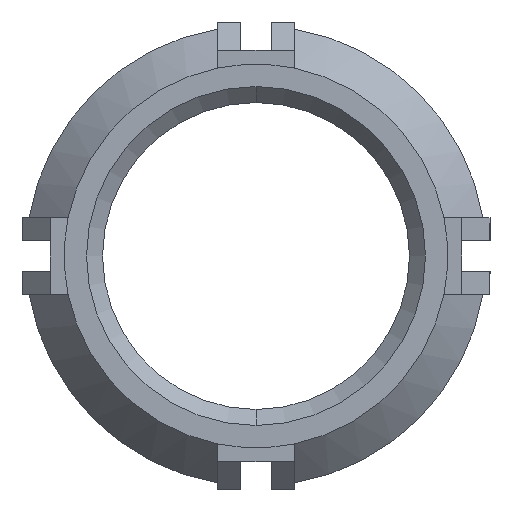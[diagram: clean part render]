
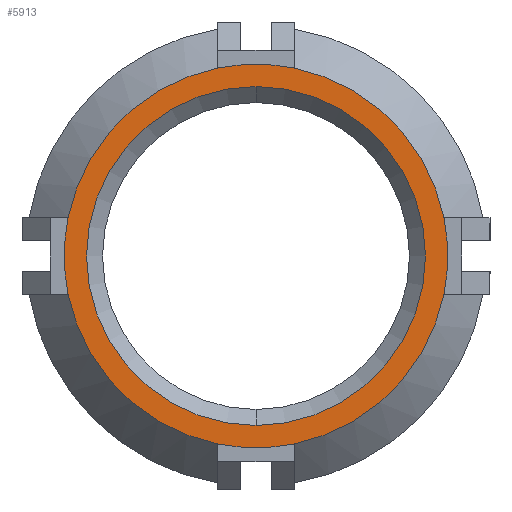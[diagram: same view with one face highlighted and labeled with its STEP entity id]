
A CAD part, front view. The second image highlights one B-rep face of the part: STEP entity #5913.
In plain terms, the highlighted planar face has unit normal (0, -1, 0).
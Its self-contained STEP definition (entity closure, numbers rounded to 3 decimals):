
#151 = CARTESIAN_POINT ( 'NONE',  ( 0., -18., 0. ) ) ;
#252 = DIRECTION ( 'NONE',  ( 0., -1., 0. ) ) ;
#322 = CARTESIAN_POINT ( 'NONE',  ( -7.348, -18., -1.5 ) ) ;
#365 = DIRECTION ( 'NONE',  ( 0., -1., 0. ) ) ;
#441 = CIRCLE ( 'NONE', #1491, 6.625 ) ;
#489 = ORIENTED_EDGE ( 'NONE', *, *, #1549, .T. ) ;
#525 = ORIENTED_EDGE ( 'NONE', *, *, #824, .T. ) ;
#530 = DIRECTION ( 'NONE',  ( 0., -1., 0. ) ) ;
#562 = ORIENTED_EDGE ( 'NONE', *, *, #1445, .T. ) ;
#647 = VERTEX_POINT ( 'NONE', #322 ) ;
#693 = EDGE_LOOP ( 'NONE', ( #2321, #489, #562, #3115, #525, #2343, #4933, #2089 ) ) ;
#733 = DIRECTION ( 'NONE',  ( 1., 0., 0. ) ) ;
#756 = DIRECTION ( 'NONE',  ( 0., 0., 1. ) ) ;
#761 = CARTESIAN_POINT ( 'NONE',  ( 0., -18., 0. ) ) ;
#824 = EDGE_CURVE ( 'NONE', #5133, #4205, #1118, .T. ) ;
#988 = EDGE_CURVE ( 'NONE', #4205, #4651, #1003, .T. ) ;
#1003 = CIRCLE ( 'NONE', #5384, 7.5 ) ;
#1118 = CIRCLE ( 'NONE', #5591, 7.5 ) ;
#1137 = CIRCLE ( 'NONE', #1626, 7.5 ) ;
#1186 = FACE_BOUND ( 'NONE', #2910, .T. ) ;
#1206 = EDGE_CURVE ( 'NONE', #4395, #2068, #441, .T. ) ;
#1226 = CIRCLE ( 'NONE', #4620, 7.5 ) ;
#1318 = DIRECTION ( 'NONE',  ( 0., -1., 0. ) ) ;
#1346 = CARTESIAN_POINT ( 'NONE',  ( 0., -18., 0. ) ) ;
#1374 = VERTEX_POINT ( 'NONE', #3412 ) ;
#1445 = EDGE_CURVE ( 'NONE', #4859, #1374, #4601, .T. ) ;
#1485 = EDGE_CURVE ( 'NONE', #2068, #4395, #5484, .T. ) ;
#1491 = AXIS2_PLACEMENT_3D ( 'NONE', #1346, #3195, #5486 ) ;
#1543 = EDGE_CURVE ( 'NONE', #4651, #4464, #5388, .T. ) ;
#1549 = EDGE_CURVE ( 'NONE', #647, #4859, #4992, .T. ) ;
#1626 = AXIS2_PLACEMENT_3D ( 'NONE', #3645, #4188, #2214 ) ;
#1714 = VERTEX_POINT ( 'NONE', #5379 ) ;
#2068 = VERTEX_POINT ( 'NONE', #2327 ) ;
#2089 = ORIENTED_EDGE ( 'NONE', *, *, #3383, .T. ) ;
#2091 = CIRCLE ( 'NONE', #4815, 7.5 ) ;
#2132 = DIRECTION ( 'NONE',  ( -1., 0., 0. ) ) ;
#2214 = DIRECTION ( 'NONE',  ( 0., 0., 1. ) ) ;
#2321 = ORIENTED_EDGE ( 'NONE', *, *, #4768, .T. ) ;
#2327 = CARTESIAN_POINT ( 'NONE',  ( 0., -18., 6.625 ) ) ;
#2343 = ORIENTED_EDGE ( 'NONE', *, *, #988, .T. ) ;
#2380 = ORIENTED_EDGE ( 'NONE', *, *, #1206, .T. ) ;
#2616 = DIRECTION ( 'NONE',  ( 0., -1., 0. ) ) ;
#2689 = CARTESIAN_POINT ( 'NONE',  ( 7.348, -18., -1.5 ) ) ;
#2902 = DIRECTION ( 'NONE',  ( 0., -1., 0. ) ) ;
#2910 = EDGE_LOOP ( 'NONE', ( #2380, #2935 ) ) ;
#2935 = ORIENTED_EDGE ( 'NONE', *, *, #1485, .T. ) ;
#2957 = CARTESIAN_POINT ( 'NONE',  ( 0., -18., 0. ) ) ;
#3037 = CARTESIAN_POINT ( 'NONE',  ( 0., -18., 0. ) ) ;
#3111 = EDGE_CURVE ( 'NONE', #1374, #5133, #2091, .T. ) ;
#3115 = ORIENTED_EDGE ( 'NONE', *, *, #3111, .T. ) ;
#3123 = CARTESIAN_POINT ( 'NONE',  ( 0., -18., 0. ) ) ;
#3195 = DIRECTION ( 'NONE',  ( 0., 1., 0. ) ) ;
#3342 = AXIS2_PLACEMENT_3D ( 'NONE', #3961, #2616, #733 ) ;
#3383 = EDGE_CURVE ( 'NONE', #4464, #1714, #1226, .T. ) ;
#3412 = CARTESIAN_POINT ( 'NONE',  ( 1.5, -18., -7.348 ) ) ;
#3521 = CARTESIAN_POINT ( 'NONE',  ( 1.5, -18., 7.348 ) ) ;
#3561 = DIRECTION ( 'NONE',  ( 0., 1., 0. ) ) ;
#3627 = DIRECTION ( 'NONE',  ( 0., 0., 1. ) ) ;
#3645 = CARTESIAN_POINT ( 'NONE',  ( 0., -18., 0. ) ) ;
#3923 = PLANE ( 'NONE',  #4551 ) ;
#3961 = CARTESIAN_POINT ( 'NONE',  ( 0., -18., 0. ) ) ;
#4188 = DIRECTION ( 'NONE',  ( 0., -1., 0. ) ) ;
#4205 = VERTEX_POINT ( 'NONE', #4781 ) ;
#4233 = CARTESIAN_POINT ( 'NONE',  ( -1.5, -18., 7.348 ) ) ;
#4244 = DIRECTION ( 'NONE',  ( 0., 0., -1. ) ) ;
#4395 = VERTEX_POINT ( 'NONE', #4499 ) ;
#4464 = VERTEX_POINT ( 'NONE', #4233 ) ;
#4499 = CARTESIAN_POINT ( 'NONE',  ( 0., -18., -6.625 ) ) ;
#4503 = AXIS2_PLACEMENT_3D ( 'NONE', #3123, #4899, #4988 ) ;
#4551 = AXIS2_PLACEMENT_3D ( 'NONE', #3037, #5782, #4895 ) ;
#4601 = CIRCLE ( 'NONE', #5092, 7.5 ) ;
#4620 = AXIS2_PLACEMENT_3D ( 'NONE', #151, #1318, #3627 ) ;
#4651 = VERTEX_POINT ( 'NONE', #3521 ) ;
#4757 = DIRECTION ( 'NONE',  ( 0., 0., 1. ) ) ;
#4768 = EDGE_CURVE ( 'NONE', #1714, #647, #1137, .T. ) ;
#4781 = CARTESIAN_POINT ( 'NONE',  ( 7.348, -18., 1.5 ) ) ;
#4815 = AXIS2_PLACEMENT_3D ( 'NONE', #4927, #365, #756 ) ;
#4859 = VERTEX_POINT ( 'NONE', #5959 ) ;
#4870 = DIRECTION ( 'NONE',  ( 0., 0., 1. ) ) ;
#4895 = DIRECTION ( 'NONE',  ( 0., 0., 1. ) ) ;
#4899 = DIRECTION ( 'NONE',  ( 0., -1., 0. ) ) ;
#4927 = CARTESIAN_POINT ( 'NONE',  ( 0., -18., 0. ) ) ;
#4933 = ORIENTED_EDGE ( 'NONE', *, *, #1543, .T. ) ;
#4988 = DIRECTION ( 'NONE',  ( 0., 0., 1. ) ) ;
#4992 = CIRCLE ( 'NONE', #4503, 7.5 ) ;
#5092 = AXIS2_PLACEMENT_3D ( 'NONE', #5819, #252, #2132 ) ;
#5133 = VERTEX_POINT ( 'NONE', #2689 ) ;
#5301 = FACE_OUTER_BOUND ( 'NONE', #693, .T. ) ;
#5379 = CARTESIAN_POINT ( 'NONE',  ( -7.348, -18., 1.5 ) ) ;
#5384 = AXIS2_PLACEMENT_3D ( 'NONE', #2957, #2902, #4757 ) ;
#5388 = CIRCLE ( 'NONE', #3342, 7.5 ) ;
#5484 = CIRCLE ( 'NONE', #5871, 6.625 ) ;
#5486 = DIRECTION ( 'NONE',  ( 0., 0., 1. ) ) ;
#5591 = AXIS2_PLACEMENT_3D ( 'NONE', #6015, #530, #4244 ) ;
#5782 = DIRECTION ( 'NONE',  ( 0., 1., 0. ) ) ;
#5819 = CARTESIAN_POINT ( 'NONE',  ( 0., -18., 0. ) ) ;
#5871 = AXIS2_PLACEMENT_3D ( 'NONE', #761, #3561, #4870 ) ;
#5913 = ADVANCED_FACE ( 'NONE', ( #1186, #5301 ), #3923, .F. ) ;
#5959 = CARTESIAN_POINT ( 'NONE',  ( -1.5, -18., -7.348 ) ) ;
#6015 = CARTESIAN_POINT ( 'NONE',  ( 0., -18., 0. ) ) ;
